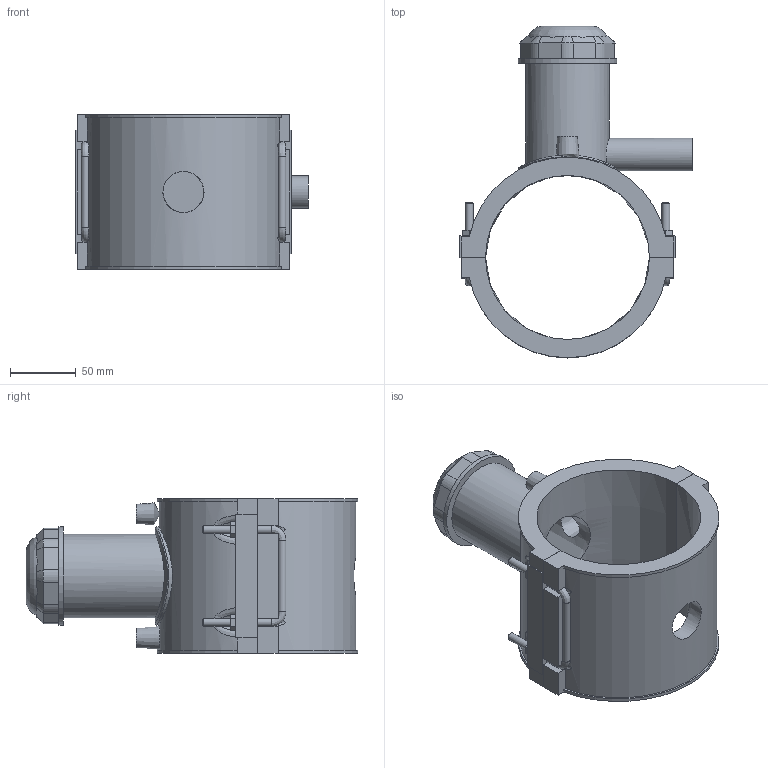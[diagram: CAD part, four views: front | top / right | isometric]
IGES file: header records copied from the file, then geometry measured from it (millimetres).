
Global section: file name: 496304125025.ipt; native system: Autodesk Inventor 2015; preprocessor: unknown; author: KIM; date: 20190124.130908; units: millimetre
Bounding box: 177 x 253 x 118 mm (x, y, z)
Volume: 853337.5 mm3; surface area: 182334.3 mm2
Topology: 2 solids, 4 shells, 208 faces, 535 edges, 348 vertices
Faces by surface type: plane 125, cylinder 36, revolution 28, cone 14, bspline 5
Full cylindrical faces by diameter (mm): 4 x2, 6 x8, 25 x1, 63.75 x1, 75 x2
